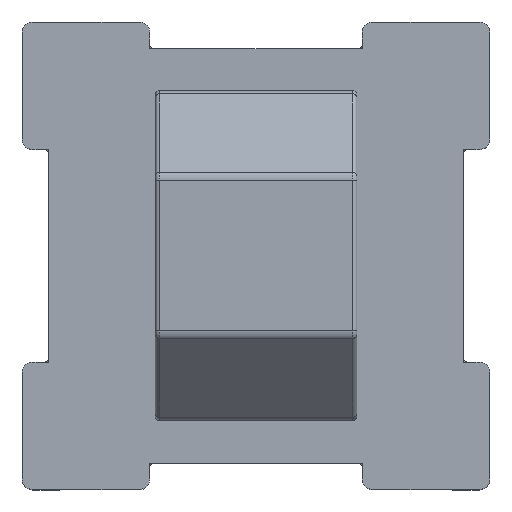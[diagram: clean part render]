
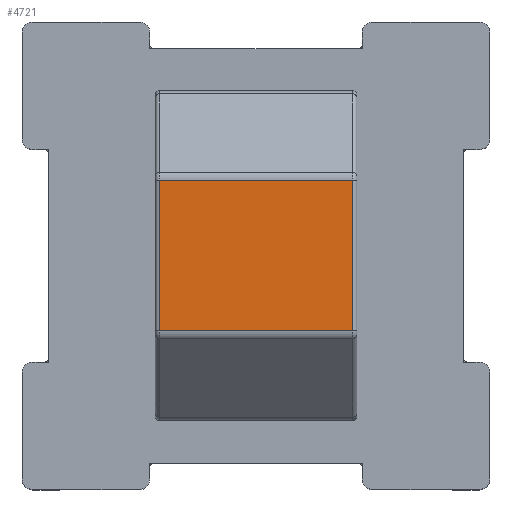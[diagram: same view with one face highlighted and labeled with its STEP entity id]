
A CAD part, top view. The second image highlights one B-rep face of the part: STEP entity #4721.
In plain terms, the highlighted planar face has unit normal (0, 0, 1).
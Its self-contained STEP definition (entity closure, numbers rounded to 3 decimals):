
#761 = DIRECTION ( 'NONE',  ( 0., -1., 0. ) ) ;
#762 = CARTESIAN_POINT ( 'NONE',  ( -4.55, -3.543, 13. ) ) ;
#764 = DIRECTION ( 'NONE',  ( 1., 0., 0. ) ) ;
#767 = CARTESIAN_POINT ( 'NONE',  ( 4.75, -3.543, 13. ) ) ;
#768 = DIRECTION ( 'NONE',  ( 0., 1., 0. ) ) ;
#769 = CARTESIAN_POINT ( 'NONE',  ( 4.55, 3.543, 13. ) ) ;
#793 = DIRECTION ( 'NONE',  ( -1., 0., 0. ) ) ;
#807 = CARTESIAN_POINT ( 'NONE',  ( 4.75, 3.543, 13. ) ) ;
#1336 = VERTEX_POINT ( 'NONE', #2233 ) ;
#1337 = VERTEX_POINT ( 'NONE', #2232 ) ;
#1338 = VERTEX_POINT ( 'NONE', #2231 ) ;
#1340 = VERTEX_POINT ( 'NONE', #2229 ) ;
#2229 = CARTESIAN_POINT ( 'NONE',  ( 4.55, 3.543, 13. ) ) ;
#2231 = CARTESIAN_POINT ( 'NONE',  ( 4.55, -3.543, 13. ) ) ;
#2232 = CARTESIAN_POINT ( 'NONE',  ( -4.55, 3.543, 13. ) ) ;
#2233 = CARTESIAN_POINT ( 'NONE',  ( -4.55, -3.543, 13. ) ) ;
#2829 = ORIENTED_EDGE ( 'NONE', *, *, #4543, .T. ) ;
#2830 = ORIENTED_EDGE ( 'NONE', *, *, #4542, .T. ) ;
#2831 = ORIENTED_EDGE ( 'NONE', *, *, #4534, .T. ) ;
#2832 = ORIENTED_EDGE ( 'NONE', *, *, #4544, .T. ) ;
#3501 = FACE_OUTER_BOUND ( 'NONE', #5148, .T. ) ;
#3912 = AXIS2_PLACEMENT_3D ( 'NONE', #5969, #6018, #6020 ) ;
#4534 = EDGE_CURVE ( 'NONE', #1340, #1337, #4871, .T. ) ;
#4542 = EDGE_CURVE ( 'NONE', #1338, #1340, #4954, .T. ) ;
#4543 = EDGE_CURVE ( 'NONE', #1336, #1338, #4959, .T. ) ;
#4544 = EDGE_CURVE ( 'NONE', #1337, #1336, #4963, .T. ) ;
#4721 = ADVANCED_FACE ( 'NONE', ( #3501 ), #6024, .T. ) ;
#4871 = LINE ( 'NONE', #807, #5767 ) ;
#4954 = LINE ( 'NONE', #769, #4956 ) ;
#4956 = VECTOR ( 'NONE', #768, 1000. ) ;
#4959 = LINE ( 'NONE', #767, #4960 ) ;
#4960 = VECTOR ( 'NONE', #764, 1000. ) ;
#4963 = LINE ( 'NONE', #762, #5804 ) ;
#5148 = EDGE_LOOP ( 'NONE', ( #2829, #2830, #2831, #2832 ) ) ;
#5767 = VECTOR ( 'NONE', #793, 1000. ) ;
#5804 = VECTOR ( 'NONE', #761, 1000. ) ;
#5969 = CARTESIAN_POINT ( 'NONE',  ( 4.75, -7.75, 13. ) ) ;
#6018 = DIRECTION ( 'NONE',  ( 0., 0., 1. ) ) ;
#6020 = DIRECTION ( 'NONE',  ( 1., 0., 0. ) ) ;
#6024 = PLANE ( 'NONE',  #3912 ) ;
